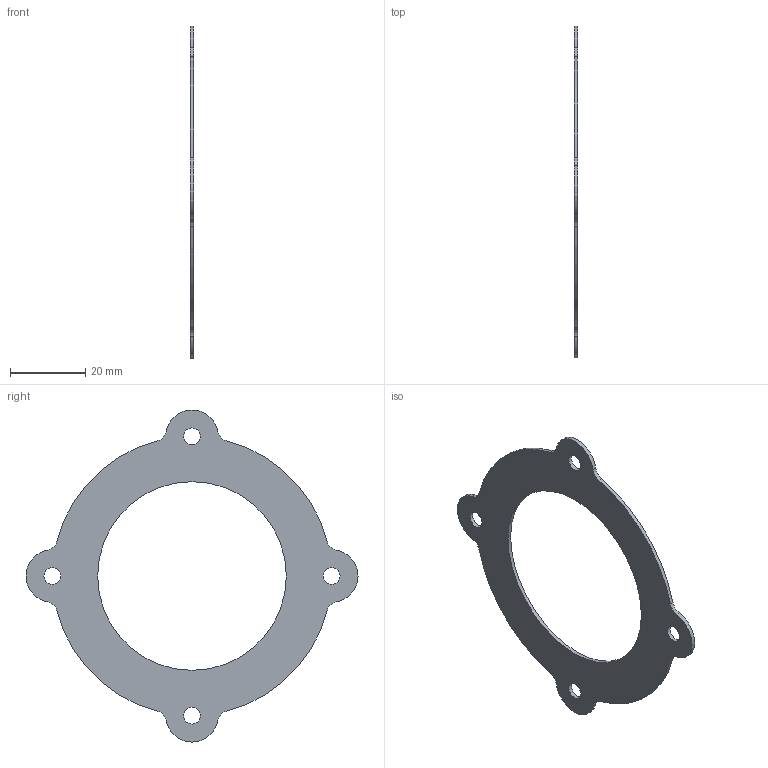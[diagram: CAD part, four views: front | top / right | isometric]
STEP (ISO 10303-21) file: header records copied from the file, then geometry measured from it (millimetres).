
FILE_DESCRIPTION(/* description */ (''),/* implementation_level */ '2;1');
FILE_NAME(/* name */ '',/* time_stamp */ '2024-08-02T13:51:19+09:00',/* author */ ('jhkim'),/* organization */ (''),/* preprocessor_version */ 'ST-DEVELOPER v20',/* originating_system */ 'Autodesk Inventor 2025',/* authorisation */ '');
FILE_SCHEMA (('AUTOMOTIVE_DESIGN { 1 0 10303 214 3 1 1 }'));
Length unit declared in the file: millimetre
Products named in the file (1): 개스킷
Bounding box: 1 x 88 x 88 mm (x, y, z)
Volume: 2600.8 mm3; surface area: 5679.6 mm2
Topology: 1 solids, 1 shells, 23 faces, 63 edges, 42 vertices
Faces by surface type: cylinder 21, plane 2
Full cylindrical faces by diameter (mm): 4.5 x4, 50 x1
Entity records: 822 total; most frequent: DIRECTION 153, CARTESIAN_POINT 129, ORIENTED_EDGE 126, AXIS2_PLACEMENT_3D 66, EDGE_CURVE 63, CIRCLE 42, VERTEX_POINT 42, EDGE_LOOP 33
